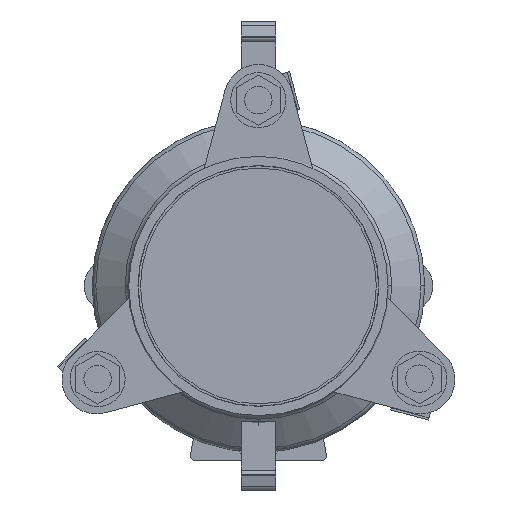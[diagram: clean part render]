
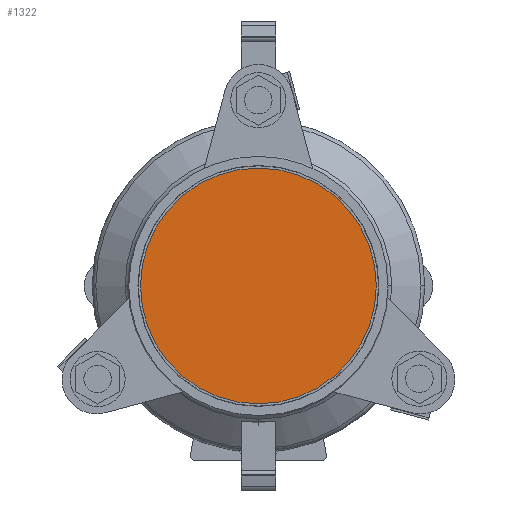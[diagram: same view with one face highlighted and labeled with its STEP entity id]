
A CAD part, left-side view. The second image highlights one B-rep face of the part: STEP entity #1322.
In plain terms, the highlighted planar face has unit normal (-1, 0, 0).
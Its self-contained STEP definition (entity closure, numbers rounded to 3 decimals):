
#1322=ADVANCED_FACE('',(#2665),#2666,.T.);
#2665=FACE_OUTER_BOUND('',#4437,.T.);
#2666=PLANE('',#4438);
#4437=EDGE_LOOP('',(#6561,#6562));
#4438=AXIS2_PLACEMENT_3D('',#6563,#6564,#6565);
#6561=ORIENTED_EDGE('',*,*,#10078,.T.);
#6562=ORIENTED_EDGE('',*,*,#9687,.T.);
#6563=CARTESIAN_POINT('',(17.5,0.0,0.0));
#6564=DIRECTION('',(-1.0,0.0,0.));
#6565=DIRECTION('',(0.,0.0,1.0));
#9687=EDGE_CURVE('',#11408,#11405,#11409,.T.);
#10078=EDGE_CURVE('',#11405,#11408,#12044,.T.);
#11405=VERTEX_POINT('',#13754);
#11408=VERTEX_POINT('',#13758);
#11409=CIRCLE('',#13759,56.5);
#12044=CIRCLE('',#14596,56.5);
#13754=CARTESIAN_POINT('',(17.5,0.0,-56.5));
#13758=CARTESIAN_POINT('',(17.5,0.,56.5));
#13759=AXIS2_PLACEMENT_3D('',#16462,#16463,#16464);
#14596=AXIS2_PLACEMENT_3D('',#16955,#16956,#16957);
#16462=CARTESIAN_POINT('',(17.5,0.0,0.0));
#16463=DIRECTION('',(-1.0,0.0,0.));
#16464=DIRECTION('',(0.,0.0,-1.0));
#16955=CARTESIAN_POINT('',(17.5,0.0,0.0));
#16956=DIRECTION('',(-1.0,0.0,0.));
#16957=DIRECTION('',(0.,0.0,-1.0));
